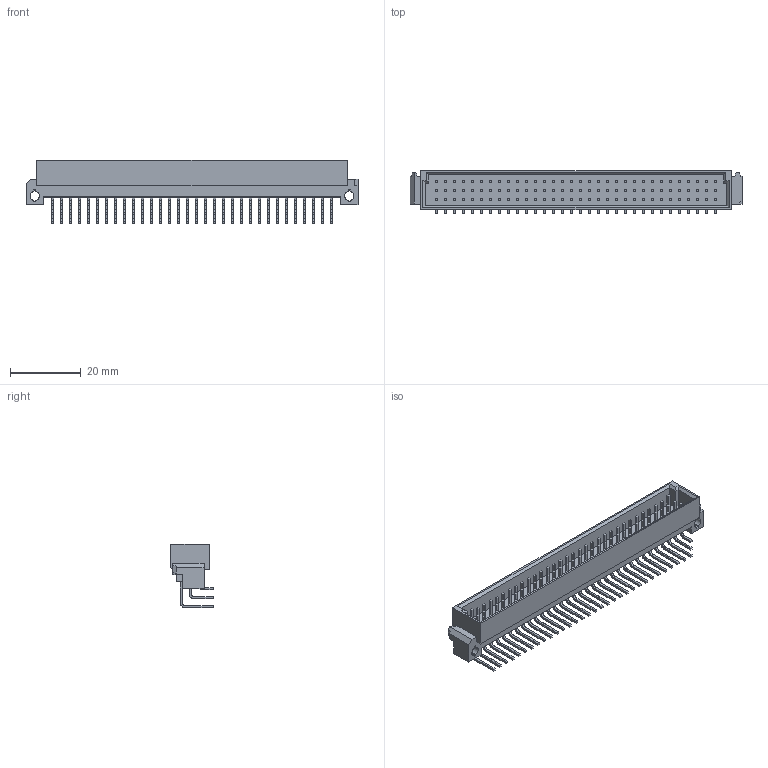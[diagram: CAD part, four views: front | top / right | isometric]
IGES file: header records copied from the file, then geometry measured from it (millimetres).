
Start section:  PTC IGES file: c-1-5536437-1-o-3d.igs
Global section: file name: c-1-5536437-1-o-3d.igs; native system: Pro/ENGINEER by Parametric Technology Corporation; preprocessor: 2010430; author: workeradm; organization: Unknown; units: millimetre
Bounding box: 93.85 x 12.09 x 18.02 mm (x, y, z)
Surface area: 8935.5 mm2 (no closed solid volume)
Topology: 0 solids, 0 shells, 1857 faces, 9832 edges, 9832 vertices
Faces by surface type: bspline 1658, revolution 197, extrusion 2
